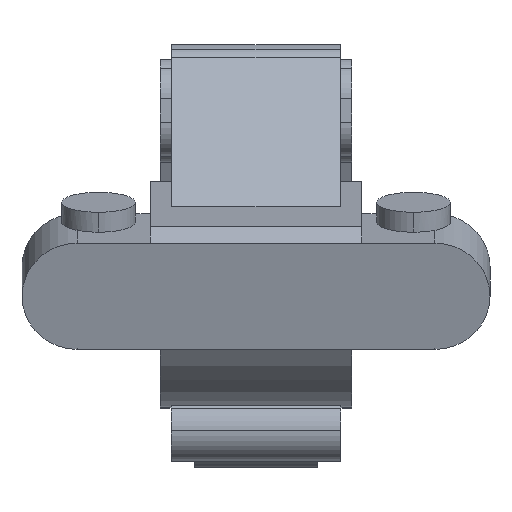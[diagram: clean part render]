
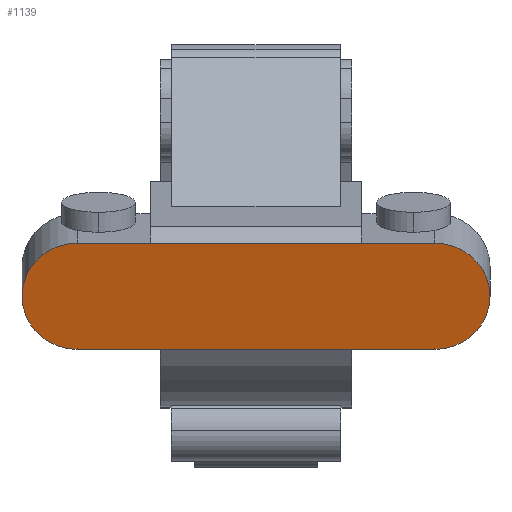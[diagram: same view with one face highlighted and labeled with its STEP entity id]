
A CAD part, top view. The second image highlights one B-rep face of the part: STEP entity #1139.
In plain terms, the highlighted planar face has unit normal (0, -0.273, 0.962).
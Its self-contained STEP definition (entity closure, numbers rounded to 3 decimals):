
#57 = VERTEX_POINT ( 'NONE', #2328 ) ;
#279 = AXIS2_PLACEMENT_3D ( 'NONE', #3833, #4782, #2133 ) ;
#300 = DIRECTION ( 'NONE',  ( 1., 0., 0. ) ) ;
#319 = ORIENTED_EDGE ( 'NONE', *, *, #1867, .T. ) ;
#364 = AXIS2_PLACEMENT_3D ( 'NONE', #2204, #2637, #4374 ) ;
#399 = CARTESIAN_POINT ( 'NONE',  ( -9.4, 14.523, 15.464 ) ) ;
#418 = LINE ( 'NONE', #5100, #597 ) ;
#513 = CARTESIAN_POINT ( 'NONE',  ( -15.9, 5.096, 12.786 ) ) ;
#534 = VECTOR ( 'NONE', #961, 1000. ) ;
#597 = VECTOR ( 'NONE', #1219, 1000. ) ;
#848 = PLANE ( 'NONE',  #279 ) ;
#917 = AXIS2_PLACEMENT_3D ( 'NONE', #4156, #2110, #1159 ) ;
#961 = DIRECTION ( 'NONE',  ( -1., 0., 0. ) ) ;
#990 = LINE ( 'NONE', #2652, #534 ) ;
#992 = VECTOR ( 'NONE', #4960, 1000. ) ;
#1061 = CARTESIAN_POINT ( 'NONE',  ( -15.9, 14.523, 15.464 ) ) ;
#1062 = VERTEX_POINT ( 'NONE', #1504 ) ;
#1114 = CIRCLE ( 'NONE', #4448, 4.9 ) ;
#1139 = ADVANCED_FACE ( 'NONE', ( #2979 ), #848, .F. ) ;
#1159 = DIRECTION ( 'NONE',  ( 1., 0., 0. ) ) ;
#1219 = DIRECTION ( 'NONE',  ( -1., 0., 0. ) ) ;
#1257 = EDGE_LOOP ( 'NONE', ( #2517, #4658, #5060, #3944, #2104, #319, #4831 ) ) ;
#1343 = DIRECTION ( 'NONE',  ( 1., 0., 0. ) ) ;
#1502 = CARTESIAN_POINT ( 'NONE',  ( 15.9, 14.523, 15.464 ) ) ;
#1504 = CARTESIAN_POINT ( 'NONE',  ( -20.8, 9.81, 14.125 ) ) ;
#1867 = EDGE_CURVE ( 'NONE', #2227, #1062, #1114, .T. ) ;
#1970 = LINE ( 'NONE', #1502, #992 ) ;
#2065 = VERTEX_POINT ( 'NONE', #513 ) ;
#2104 = ORIENTED_EDGE ( 'NONE', *, *, #3891, .T. ) ;
#2110 = DIRECTION ( 'NONE',  ( 0., -0.273, 0.962 ) ) ;
#2133 = DIRECTION ( 'NONE',  ( -1., 0., 0. ) ) ;
#2159 = CIRCLE ( 'NONE', #364, 4.9 ) ;
#2160 = EDGE_CURVE ( 'NONE', #3576, #57, #2159, .T. ) ;
#2204 = CARTESIAN_POINT ( 'NONE',  ( 15.9, 9.81, 14.125 ) ) ;
#2227 = VERTEX_POINT ( 'NONE', #1061 ) ;
#2328 = CARTESIAN_POINT ( 'NONE',  ( 15.9, 14.523, 15.464 ) ) ;
#2465 = DIRECTION ( 'NONE',  ( 0., -0.273, 0.962 ) ) ;
#2517 = ORIENTED_EDGE ( 'NONE', *, *, #4700, .T. ) ;
#2637 = DIRECTION ( 'NONE',  ( 0., -0.273, 0.962 ) ) ;
#2652 = CARTESIAN_POINT ( 'NONE',  ( -15.9, 14.523, 15.464 ) ) ;
#2727 = EDGE_CURVE ( 'NONE', #1062, #2065, #4261, .T. ) ;
#2979 = FACE_OUTER_BOUND ( 'NONE', #1257, .T. ) ;
#3030 = CARTESIAN_POINT ( 'NONE',  ( -15.9, 5.096, 12.786 ) ) ;
#3576 = VERTEX_POINT ( 'NONE', #3729 ) ;
#3729 = CARTESIAN_POINT ( 'NONE',  ( 15.9, 5.096, 12.786 ) ) ;
#3739 = CARTESIAN_POINT ( 'NONE',  ( -15.9, 9.81, 14.125 ) ) ;
#3763 = VERTEX_POINT ( 'NONE', #399 ) ;
#3765 = VECTOR ( 'NONE', #1343, 1000. ) ;
#3833 = CARTESIAN_POINT ( 'NONE',  ( 15.9, 9.81, 14.125 ) ) ;
#3891 = EDGE_CURVE ( 'NONE', #3763, #2227, #990, .T. ) ;
#3937 = EDGE_CURVE ( 'NONE', #5494, #3763, #1970, .T. ) ;
#3944 = ORIENTED_EDGE ( 'NONE', *, *, #3937, .T. ) ;
#3946 = LINE ( 'NONE', #3030, #3765 ) ;
#4140 = EDGE_CURVE ( 'NONE', #57, #5494, #418, .T. ) ;
#4156 = CARTESIAN_POINT ( 'NONE',  ( -15.9, 9.81, 14.125 ) ) ;
#4261 = CIRCLE ( 'NONE', #917, 4.9 ) ;
#4374 = DIRECTION ( 'NONE',  ( -1., 0., 0. ) ) ;
#4448 = AXIS2_PLACEMENT_3D ( 'NONE', #3739, #2465, #300 ) ;
#4658 = ORIENTED_EDGE ( 'NONE', *, *, #2160, .T. ) ;
#4700 = EDGE_CURVE ( 'NONE', #2065, #3576, #3946, .T. ) ;
#4782 = DIRECTION ( 'NONE',  ( 0., 0.273, -0.962 ) ) ;
#4831 = ORIENTED_EDGE ( 'NONE', *, *, #2727, .T. ) ;
#4960 = DIRECTION ( 'NONE',  ( -1., 0., 0. ) ) ;
#5022 = CARTESIAN_POINT ( 'NONE',  ( 9.4, 14.523, 15.464 ) ) ;
#5060 = ORIENTED_EDGE ( 'NONE', *, *, #4140, .T. ) ;
#5100 = CARTESIAN_POINT ( 'NONE',  ( -15.9, 14.523, 15.464 ) ) ;
#5494 = VERTEX_POINT ( 'NONE', #5022 ) ;
